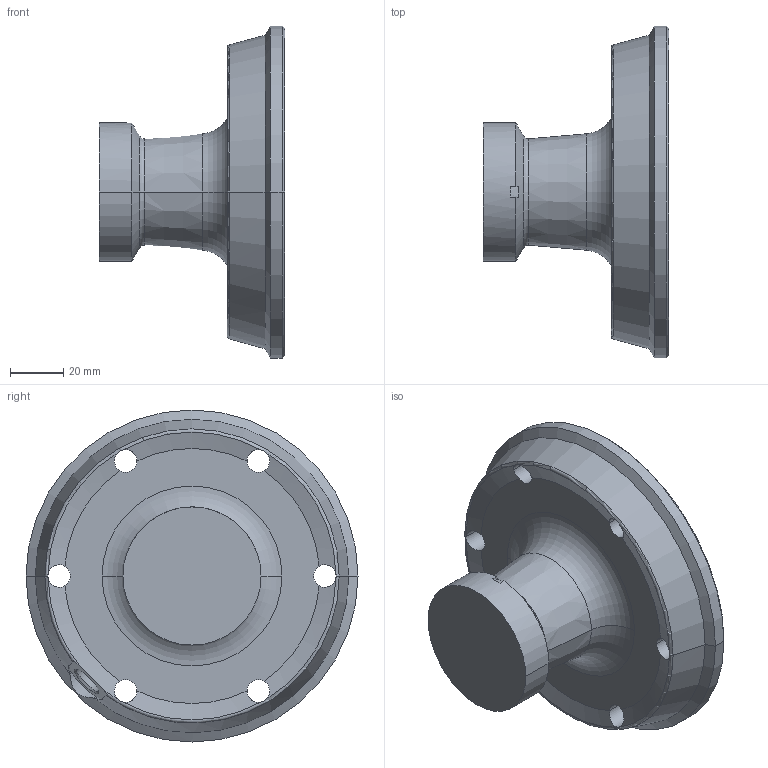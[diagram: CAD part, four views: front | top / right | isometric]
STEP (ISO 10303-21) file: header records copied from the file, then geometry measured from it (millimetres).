
FILE_DESCRIPTION (( 'STEP AP214' ), '1' );
FILE_NAME ('IRB4600_45kg-205_LINK6_CAD_rev04.STEP', '2016-12-06T10:31:18', ( 'ABB' ), ( 'ABB' ), 'SwSTEP 2.0', 'SolidWorks 2014', '' );
FILE_SCHEMA (( 'AUTOMOTIVE_DESIGN' ));
Length unit declared in the file: millimetre
Products named in the file (1): IRB4600_45kg-205_LINK6_CAD_rev04
Bounding box: 70 x 125 x 125 mm (x, y, z)
Volume: 266084 mm3; surface area: 43365.3 mm2
Topology: 1 solids, 1 shells, 85 faces, 213 edges, 127 vertices
Faces by surface type: cone 37, cylinder 25, torus 13, plane 10
Entity records: 2967 total; most frequent: CARTESIAN_POINT 895, DIRECTION 448, ORIENTED_EDGE 422, EDGE_CURVE 211, AXIS2_PLACEMENT_3D 195, VERTEX_POINT 127, CIRCLE 109, EDGE_LOOP 96
